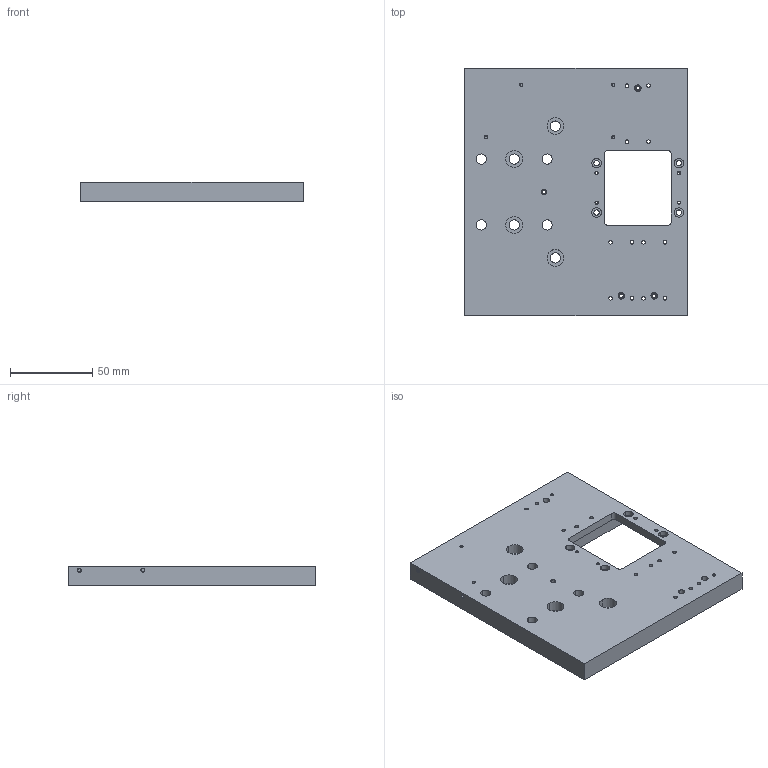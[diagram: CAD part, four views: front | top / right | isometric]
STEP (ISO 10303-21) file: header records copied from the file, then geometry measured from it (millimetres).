
FILE_DESCRIPTION(/* description */ ('VariCAD 2010-3.03 AP-214'),/* implementation_level */ '2;1');
FILE_NAME(/* name */ '0353-19-53',/* time_stamp */ '2011-01-17T17:13:21-07:00',/* author */ (''),/* organization */ (''),/* preprocessor_version */ 'ST-DEVELOPER v12',/* originating_system */ 'VariCAD 2010-3.03; kernel version (20100102)',/* authorisation */ '');
FILE_SCHEMA (('AUTOMOTIVE_DESIGN'));
Length unit declared in the file: millimetre
Products named in the file (1): Part
Bounding box: 135 x 150 x 12 mm (x, y, z)
Volume: 206443 mm3; surface area: 51524.6 mm2
Topology: 18 solids, 18 shells, 384 faces, 846 edges, 540 vertices
Faces by surface type: cylinder 258, plane 92, cone 34
Entity records: 13853 total; most frequent: DIRECTION 2168, CARTESIAN_POINT 1789, ORIENTED_EDGE 1692, AXIS2_PLACEMENT_3D 919, EDGE_CURVE 846, VERTEX_POINT 540, EDGE_LOOP 526, CIRCLE 516
